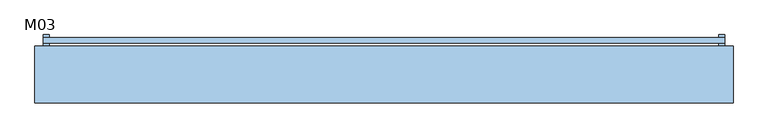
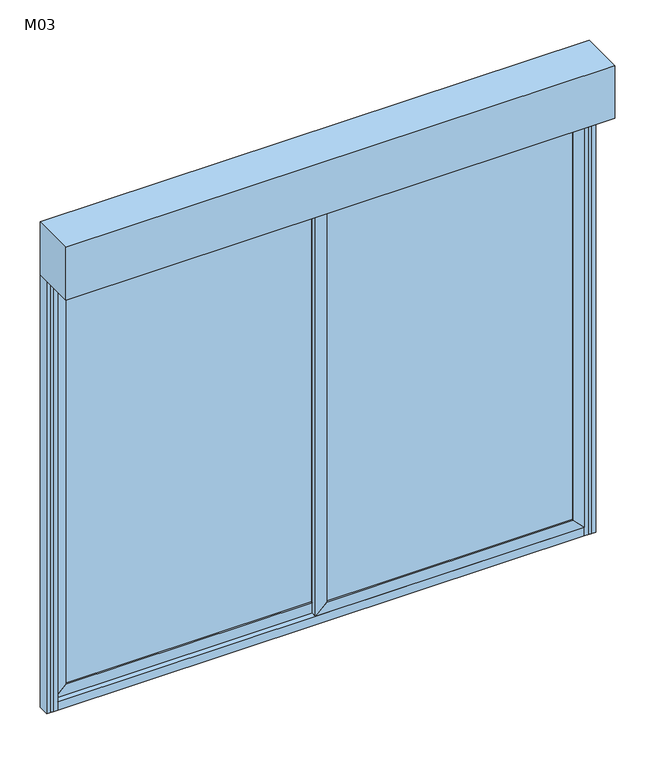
"""IFC4 building model written with IfcOpenShell, lengths in millimetres: window geometry, Rect 2 couliss+CVR+App : M03."""

from ifc_helpers import new_model, si_unit, frame, origin, origin_with_axes, place, context, project, spatial, polyline, outline, extrude, faceted_brep, source, transform, mapped, element, save


def m03_dc1d0546(model_context):
    return source(origin(), model_context, "Body", "SolidModel", [
        extrude(outline(polyline([(-1200.0, 130.0), (1200.0, 130.0), (1200.0, 110.0), (-1200.0, 110.0), (-1200.0, 130.0)])), frame((0.0, 0.0, 1780.0), z_axis=(0.0, 0.0, 1.0), x_axis=(1.0, 0.0, 0.0)), (0.0, 0.0, 1.0), 395.0),
        extrude(outline(polyline([(-100.0, 2300.0), (100.0, 2300.0), (100.0, 2080.0), (100.0, 2050.0), (-100.0, 2050.0), (-100.0, 2300.0)])), frame((-1230.0, 0.0, 0.0), z_axis=(1.0, 0.0, 0.0), x_axis=(0.0, 1.0, 0.0)), (0.0, 0.0, 1.0), 2460.0),
        extrude(outline(polyline([(1200.0, 100.0), (1180.0, 100.0), (1180.0, 110.0), (1200.0, 110.0), (1200.0, 100.0)])), frame((0.0, 0.0, 40.0), z_axis=(0.0, 0.0, 1.0), x_axis=(1.0, 0.0, 0.0)), (0.0, 0.0, 1.0), 2010.0),
        extrude(outline(polyline([(1180.0, 140.0), (1200.0, 140.0), (1200.0, 130.0), (1180.0, 130.0), (1180.0, 140.0)])), frame((0.0, 0.0, 40.0), z_axis=(0.0, 0.0, 1.0), x_axis=(1.0, 0.0, 0.0)), (0.0, 0.0, 1.0), 2010.0),
        extrude(outline(polyline([(-1200.0, 100.0), (-1200.0, 110.0), (-1180.0, 110.0), (-1180.0, 100.0), (-1200.0, 100.0)])), frame((0.0, 0.0, 40.0), z_axis=(0.0, 0.0, 1.0), x_axis=(1.0, 0.0, 0.0)), (0.0, 0.0, 1.0), 2010.0),
        extrude(outline(polyline([(-1200.0, 140.0), (-1180.0, 140.0), (-1180.0, 130.0), (-1200.0, 130.0), (-1200.0, 140.0)])), frame((0.0, 0.0, 40.0), z_axis=(0.0, 0.0, 1.0), x_axis=(1.0, 0.0, 0.0)), (0.0, 0.0, 1.0), 2010.0),
        extrude(outline(polyline([(40.0, -25.0), (90.0, 25.0), (1980.0, 25.0), (2030.0, -25.0), (40.0, -25.0)])), frame((0.0, 50.0, 0.0), z_axis=(0.0, 1.0, 0.0), x_axis=(0.0, 0.0, 1.0)), (0.0, 0.0, 1.0), 25.0),
        extrude(outline(polyline([(25.0, 67.5), (1130.0, 67.5), (1130.0, 57.5), (25.0, 57.5), (25.0, 67.5)])), frame((0.0, 0.0, 90.0), z_axis=(0.0, 0.0, 1.0), x_axis=(1.0, 0.0, 0.0)), (0.0, 0.0, 1.0), 1890.0),
        extrude(outline(polyline([(40.0, 1180.0), (2030.0, 1180.0), (1980.0, 1130.0), (90.0, 1130.0), (40.0, 1180.0)])), frame((0.0, 50.0, 0.0), z_axis=(0.0, 1.0, 0.0), x_axis=(0.0, 0.0, 1.0)), (0.0, 0.0, 1.0), 25.0),
        extrude(outline(polyline([(40.0, 25.0), (2030.0, 25.0), (1980.0, -25.0), (90.0, -25.0), (40.0, 25.0)])), frame((0.0, 75.0, 0.0), z_axis=(0.0, 1.0, 0.0), x_axis=(0.0, 0.0, 1.0)), (0.0, 0.0, 1.0), 25.0),
        extrude(outline(polyline([(90.0, -1130.0), (1980.0, -1130.0), (2030.0, -1180.0), (40.0, -1180.0), (90.0, -1130.0)])), frame((0.0, 75.0, 0.0), z_axis=(0.0, 1.0, 0.0), x_axis=(0.0, 0.0, 1.0)), (0.0, 0.0, 1.0), 25.0),
        extrude(outline(polyline([(-1130.0, 92.5), (-25.0, 92.5), (-25.0, 82.5), (-1130.0, 82.5), (-1130.0, 92.5)])), frame((0.0, 0.0, 90.0), z_axis=(0.0, 0.0, 1.0), x_axis=(1.0, 0.0, 0.0)), (0.0, 0.0, 1.0), 1890.0),
        extrude(outline(polyline([(90.0, -1130.0), (40.0, -1180.0), (40.0, 25.0), (90.0, -25.0), (90.0, -1130.0)])), frame((0.0, 75.0, 0.0), z_axis=(0.0, 1.0, 0.0), x_axis=(0.0, 0.0, 1.0)), (0.0, 0.0, 1.0), 25.0),
        extrude(outline(polyline([(90.0, 1130.0), (90.0, 25.0), (40.0, -25.0), (40.0, 1180.0), (90.0, 1130.0)])), frame((0.0, 50.0, 0.0), z_axis=(0.0, 1.0, 0.0), x_axis=(0.0, 0.0, 1.0)), (0.0, 0.0, 1.0), 25.0),
        extrude(outline(polyline([(1980.0, 1130.0), (2030.0, 1180.0), (2030.0, -25.0), (1980.0, 25.0), (1980.0, 1130.0)])), frame((0.0, 50.0, 0.0), z_axis=(0.0, 1.0, 0.0), x_axis=(0.0, 0.0, 1.0)), (0.0, 0.0, 1.0), 25.0),
        extrude(outline(polyline([(1980.0, -25.0), (2030.0, 25.0), (2030.0, -1180.0), (1980.0, -1130.0), (1980.0, -25.0)])), frame((0.0, 75.0, 0.0), z_axis=(0.0, 1.0, 0.0), x_axis=(0.0, 0.0, 1.0)), (0.0, 0.0, 1.0), 25.0),
        extrude(outline(polyline([(1210.0, 50.0), (1200.0, 50.0), (1200.0, 100.0), (1210.0, 100.0), (1210.0, 50.0)])), origin_with_axes(), (0.0, 0.0, 1.0), 2050.0),
        extrude(outline(polyline([(-1210.0, 50.0), (-1210.0, 100.0), (-1200.0, 100.0), (-1200.0, 50.0), (-1210.0, 50.0)])), origin_with_axes(), (0.0, 0.0, 1.0), 2050.0),
        extrude(outline(polyline([(2080.0, 1230.0), (2030.0, 1180.0), (0.0, 1180.0), (0.0, 1230.0), (2080.0, 1230.0)])), frame((0.0, 50.0, 0.0), z_axis=(0.0, 1.0, 0.0), x_axis=(0.0, 0.0, 1.0)), (0.0, 0.0, 1.0), 50.0),
        extrude(outline(polyline([(2080.0, -1230.0), (0.0, -1230.0), (0.0, -1180.0), (2030.0, -1180.0), (2080.0, -1230.0)])), frame((0.0, 50.0, 0.0), z_axis=(0.0, 1.0, 0.0), x_axis=(0.0, 0.0, 1.0)), (0.0, 0.0, 1.0), 50.0),
        extrude(outline(polyline([(-1210.0, 50.0), (-1210.0, 100.0), (1210.0, 100.0), (1210.0, 50.0), (-1210.0, 50.0)])), frame((0.0, 0.0, 2050.0), z_axis=(0.0, 0.0, 1.0), x_axis=(1.0, 0.0, 0.0)), (0.0, 0.0, 1.0), 10.0),
        extrude(outline(polyline([(2080.0, 1230.0), (2080.0, -1230.0), (2030.0, -1180.0), (2030.0, 1180.0), (2080.0, 1230.0)])), frame((0.0, 50.0, 0.0), z_axis=(0.0, 1.0, 0.0), x_axis=(0.0, 0.0, 1.0)), (0.0, 0.0, 1.0), 50.0),
        faceted_brep([(-1180.0, 50.0, 40.0), (-1180.0, 100.0, 40.0), (-1180.0, 100.0, 0.0), (-1180.0, 90.0, 0.0), (-1180.0, 90.0, 30.0), (-1180.0, 50.0, 39.7190155), (1180.0, 100.0, 0.0), (1180.0, 100.0, 40.0), (1180.0, 50.0, 40.0), (1180.0, 50.0, 39.7190155), (1180.0, 90.0, 30.0), (1180.0, 90.0, 0.0), (1200.0, 90.0, 0.0), (1200.0, 50.0, 0.0), (-1200.0, 50.0, 0.0), (-1200.0, 90.0, 0.0), (-1200.0, 50.0, 39.7190155), (1200.0, 50.0, 39.7190155), (-1200.0, 90.0, 30.0), (1200.0, 90.0, 30.0)], [[[0, 1, 2, 3, 4, 5]], [[6, 7, 8, 9, 10, 11]], [[1, 0, 8, 7]], [[2, 1, 7, 6]], [[2, 6, 11, 12, 13, 14, 15, 3]], [[8, 0, 5, 16, 14, 13, 17, 9]], [[14, 16, 18, 15]], [[13, 12, 19, 17]], [[15, 18, 4, 3]], [[19, 12, 11, 10]], [[18, 16, 5, 4]], [[17, 19, 10, 9]]]),
    ])


if __name__ == "__main__":
    model = new_model("IFC4")
    model_context = context("Model", 3, world=origin())
    ifc_project = project(units=[si_unit("LENGTHUNIT", "METRE", prefix="MILLI")], contexts=[model_context])
    site = spatial("IfcSite", under=ifc_project)
    building = spatial("IfcBuilding", under=site)
    placement = place(None, origin())
    m03_shape = m03_dc1d0546(model_context)
    element("IfcWindow", 1, ObjectType="Rect 2 couliss+CVR+App : M03", at=placement, inside=building, context=model_context, shape_type="MappedRepresentation", body=[
        mapped(m03_shape, transform((0.0, 0.0, 0.0), x_axis=(1.0, 0.0, 0.0), y_axis=(0.0, 1.0, 0.0), z_axis=(0.0, 0.0, 1.0))),
    ])
    save(model, "model.ifc")
